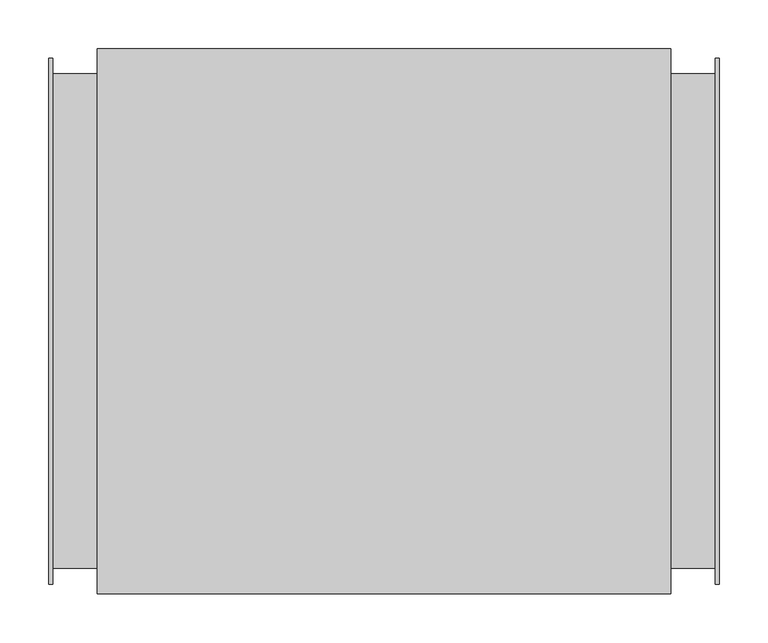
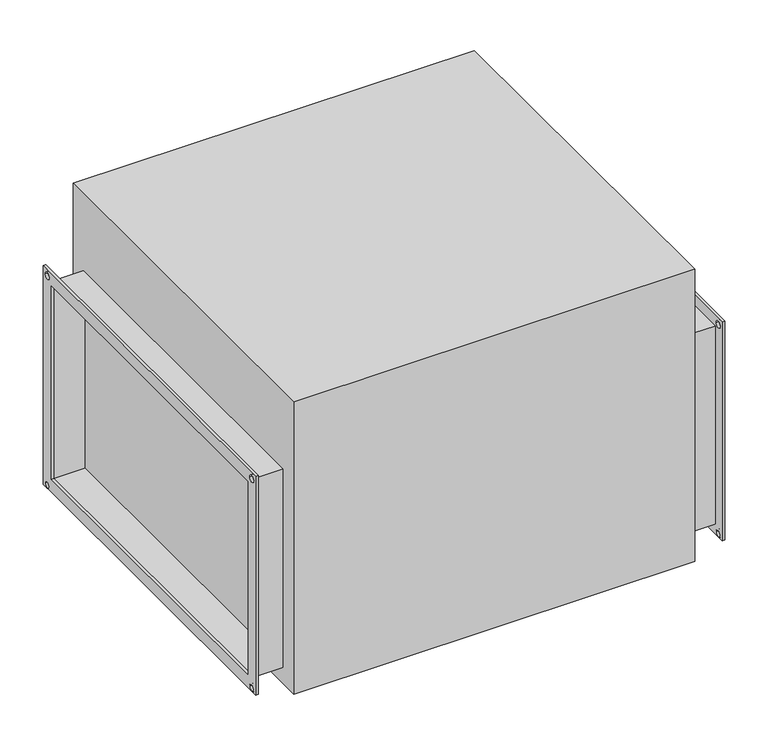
"""IFC4 building model written with IfcOpenShell, lengths in millimetres: proxy geometry."""

from ifc_helpers import new_model, si_unit, frame, origin, place, context, project, spatial, polyline, circle_curve, outline, extrude, source, transform, mapped, element, save
from ifc_brep_helpers import plane_surface, revolved_surface, advanced_brep


def mechanical_equipment_c9182f76(model_context):
    return source(origin(), model_context, "Body", "SolidModel", [
        advanced_brep(
        [(340.5, 270.0, 170.0), (340.5, 270.0, -170.0), (340.5, 260.0, -170.0), (340.5, 265.0, -165.0), (340.5, 255.0, -165.0), (340.5, -260.0, -170.0), (340.5, -255.0, -165.0), (340.5, -265.0, -165.0), (340.5, -270.0, -170.0), (340.5, -270.0, 170.0), (340.5, 250.0, 150.0), (340.5, -250.0, 150.0), (340.5, -250.0, -150.0), (340.5, 250.0, -150.0), (340.5, 255.0, 160.0), (340.5, 265.0, 160.0), (340.5, -265.0, 160.0), (340.5, -255.0, 160.0), (344.5, 270.0, 170.0), (344.5, -270.0, 170.0), (344.5, -270.0, -170.0), (344.5, -260.0, -170.0), (344.5, -265.0, -165.0), (344.5, -255.0, -165.0), (344.5, 260.0, -170.0), (344.5, 255.0, -165.0), (344.5, 265.0, -165.0), (344.5, 270.0, -170.0), (344.5, 250.0, 150.0), (344.5, 250.0, -150.0), (344.5, -250.0, -150.0), (344.5, -250.0, 150.0), (344.5, 265.0, 160.0), (344.5, 255.0, 160.0), (344.5, -255.0, 160.0), (344.5, -265.0, 160.0)],
        [
            (0, 1),
            (1, 2),
            (2, 3, circle_curve(frame((340.5, 260.0, -165.0), z_axis=(1.0, 0.0, 0.0), x_axis=(0.0, 1.0, 0.0)), 5.0)),
            (3, 4, circle_curve(frame((340.5, 260.0, -165.0), z_axis=(1.0, 0.0, 0.0), x_axis=(0.0, 1.0, 0.0)), 5.0)),
            (4, 2, circle_curve(frame((340.5, 260.0, -165.0), z_axis=(1.0, 0.0, 0.0), x_axis=(0.0, 1.0, 0.0)), 5.0)),
            (2, 5),
            (5, 6, circle_curve(frame((340.5, -260.0, -165.0), z_axis=(1.0, 0.0, 0.0), x_axis=(0.0, 1.0, 0.0)), 5.0)),
            (6, 7, circle_curve(frame((340.5, -260.0, -165.0), z_axis=(1.0, 0.0, 0.0), x_axis=(0.0, 1.0, 0.0)), 5.0)),
            (7, 5, circle_curve(frame((340.5, -260.0, -165.0), z_axis=(1.0, 0.0, 0.0), x_axis=(0.0, 1.0, 0.0)), 5.0)),
            (5, 8),
            (8, 9),
            (9, 0),
            (10, 11),
            (11, 12),
            (12, 13),
            (13, 10),
            (14, 15, circle_curve(frame((340.5, 260.0, 160.0), z_axis=(1.0, 0.0, 0.0), x_axis=(0.0, 1.0, 0.0)), 5.0)),
            (15, 14, circle_curve(frame((340.5, 260.0, 160.0), z_axis=(1.0, 0.0, 0.0), x_axis=(0.0, 1.0, 0.0)), 5.0)),
            (16, 17, circle_curve(frame((340.5, -260.0, 160.0), z_axis=(1.0, 0.0, 0.0), x_axis=(0.0, 1.0, 0.0)), 5.0)),
            (17, 16, circle_curve(frame((340.5, -260.0, 160.0), z_axis=(1.0, 0.0, 0.0), x_axis=(0.0, 1.0, 0.0)), 5.0)),
            (18, 19),
            (19, 20),
            (20, 21),
            (21, 22, circle_curve(frame((344.5, -260.0, -165.0), z_axis=(-1.0, 0.0, 0.0), x_axis=(0.0, 1.0, 0.0)), 5.0)),
            (22, 23, circle_curve(frame((344.5, -260.0, -165.0), z_axis=(-1.0, 0.0, 0.0), x_axis=(0.0, 1.0, 0.0)), 5.0)),
            (23, 21, circle_curve(frame((344.5, -260.0, -165.0), z_axis=(-1.0, 0.0, 0.0), x_axis=(0.0, 1.0, 0.0)), 5.0)),
            (21, 24),
            (24, 25, circle_curve(frame((344.5, 260.0, -165.0), z_axis=(-1.0, 0.0, 0.0), x_axis=(0.0, 1.0, 0.0)), 5.0)),
            (25, 26, circle_curve(frame((344.5, 260.0, -165.0), z_axis=(-1.0, 0.0, 0.0), x_axis=(0.0, 1.0, 0.0)), 5.0)),
            (26, 24, circle_curve(frame((344.5, 260.0, -165.0), z_axis=(-1.0, 0.0, 0.0), x_axis=(0.0, 1.0, 0.0)), 5.0)),
            (24, 27),
            (27, 18),
            (28, 29),
            (29, 30),
            (30, 31),
            (31, 28),
            (32, 33, circle_curve(frame((344.5, 260.0, 160.0), z_axis=(-1.0, 0.0, 0.0), x_axis=(0.0, 1.0, 0.0)), 5.0)),
            (33, 32, circle_curve(frame((344.5, 260.0, 160.0), z_axis=(-1.0, 0.0, 0.0), x_axis=(0.0, 1.0, 0.0)), 5.0)),
            (34, 35, circle_curve(frame((344.5, -260.0, 160.0), z_axis=(-1.0, 0.0, 0.0), x_axis=(0.0, 1.0, 0.0)), 5.0)),
            (35, 34, circle_curve(frame((344.5, -260.0, 160.0), z_axis=(-1.0, 0.0, 0.0), x_axis=(0.0, 1.0, 0.0)), 5.0)),
            (13, 29),
            (28, 10),
            (12, 30),
            (11, 31),
            (9, 19),
            (18, 0),
            (8, 20),
            (1, 27),
            (14, 33),
            (32, 15),
            (16, 35),
            (34, 17),
            (7, 22),
            (23, 6),
            (4, 25),
            (26, 3),
        ],
        [
            plane_surface(frame((340.5, 250.0, -150.0), z_axis=(-1.0, 0.0, 0.0), x_axis=(0.0, 0.0, 1.0))),
            plane_surface(frame((344.5, 250.0, -150.0), z_axis=(1.0, 0.0, 0.0), x_axis=(0.0, 0.0, -1.0))),
            plane_surface(frame((344.5, 250.0, 150.0), z_axis=(0.0, -1.0, 0.0), x_axis=(-1.0, 0.0, 0.0))),
            plane_surface(frame((344.5, 250.0, -150.0), z_axis=(0.0, 0.0, 1.0), x_axis=(-1.0, 0.0, 0.0))),
            plane_surface(frame((344.5, -250.0, -150.0), z_axis=(0.0, 1.0, 0.0), x_axis=(-1.0, 0.0, 0.0))),
            plane_surface(frame((344.5, -250.0, 150.0), z_axis=(0.0, 0.0, -1.0), x_axis=(-1.0, 0.0, 0.0))),
            plane_surface(frame((344.5, 270.0, 170.0), z_axis=(0.0, 0.0, 1.0), x_axis=(-1.0, 0.0, 0.0))),
            plane_surface(frame((344.5, -270.0, 170.0), z_axis=(0.0, -1.0, 0.0), x_axis=(-1.0, 0.0, 0.0))),
            plane_surface(frame((344.5, -270.0, -170.0), z_axis=(0.0, 0.0, -1.0), x_axis=(-1.0, 0.0, 0.0))),
            plane_surface(frame((344.5, 270.0, -170.0), z_axis=(0.0, 1.0, 0.0), x_axis=(-1.0, 0.0, 0.0))),
            revolved_surface(polyline([(344.5, 265.0, 160.0), (340.5, 265.0, 160.0)]), (-344.5, 260.0, 160.0), (1.0, 0.0, 0.0)),
            revolved_surface(polyline([(344.5, -255.0, 160.0), (340.5, -255.0, 160.0)]), (0.0, -260.0, 160.0), (1.0, 0.0, 0.0)),
            revolved_surface(polyline([(344.5, -255.0, -165.0), (340.5, -255.0, -165.0)]), (0.0, -260.0, -165.0), (1.0, 0.0, 0.0)),
            revolved_surface(polyline([(344.5, 265.0, -165.0), (340.5, 265.0, -165.0)]), (0.0, 260.0, -165.0), (1.0, 0.0, 0.0)),
        ],
        [
            (0, [[1, 2, 3, 4, 5, 6, 7, 8, 9, 10, 11, 12], [13, 14, 15, 16], [17, 18], [19, 20]]),
            (1, [[21, 22, 23, 24, 25, 26, 27, 28, 29, 30, 31, 32], [33, 34, 35, 36], [37, 38], [39, 40]]),
            (2, [[-16, 41, -33, 42]]),
            (3, [[-15, 43, -34, -41]]),
            (4, [[-14, 44, -35, -43]]),
            (5, [[-13, -42, -36, -44]]),
            (6, [[-12, 45, -21, 46]]),
            (7, [[-11, 47, -22, -45]]),
            (8, [[-47, -10, -6, -2, 48, -31, -27, -23]]),
            (9, [[-1, -46, -32, -48]]),
            (10, [[49, -37, 50, -17]]),
            (10, [[-49, -18, -50, -38]]),
            (11, [[51, -39, 52, -19]]),
            (11, [[-51, -20, -52, -40]]),
            (12, [[53, -24, -26, 54, -7, -9]]),
            (12, [[-53, -8, -54, -25]]),
            (13, [[55, -28, -30, 56, -3, -5]]),
            (13, [[-55, -4, -56, -29]]),
        ],
    ),
        advanced_brep(
        [(-344.5, -270.0, 170.0), (-344.5, 270.0, 170.0), (-344.5, 270.0, -170.0), (-344.5, 260.0, -170.0), (-344.5, 265.0, -165.0), (-344.5, 255.0, -165.0), (-344.5, -260.0, -170.0), (-344.5, -255.0, -165.0), (-344.5, -265.0, -165.0), (-344.5, -270.0, -170.0), (-344.5, -250.0, 150.0), (-344.5, -250.0, -150.0), (-344.5, 250.0, -150.0), (-344.5, 250.0, 150.0), (-344.5, 255.0, 160.0), (-344.5, 265.0, 160.0), (-344.5, -265.0, 160.0), (-344.5, -255.0, 160.0), (-340.5, -270.0, 170.0), (-340.5, -270.0, -170.0), (-340.5, -260.0, -170.0), (-340.5, -265.0, -165.0), (-340.5, -255.0, -165.0), (-340.5, 260.0, -170.0), (-340.5, 255.0, -165.0), (-340.5, 265.0, -165.0), (-340.5, 270.0, -170.0), (-340.5, 270.0, 170.0), (-340.5, -250.0, 150.0), (-340.5, 250.0, 150.0), (-340.5, 250.0, -150.0), (-340.5, -250.0, -150.0), (-340.5, 265.0, 160.0), (-340.5, 255.0, 160.0), (-340.5, -255.0, 160.0), (-340.5, -265.0, 160.0)],
        [
            (0, 1),
            (1, 2),
            (2, 3),
            (3, 4, circle_curve(frame((-344.5, 260.0, -165.0), z_axis=(1.0, 0.0, 0.0), x_axis=(0.0, 1.0, 0.0)), 5.0)),
            (4, 5, circle_curve(frame((-344.5, 260.0, -165.0), z_axis=(1.0, 0.0, 0.0), x_axis=(0.0, 1.0, 0.0)), 5.0)),
            (5, 3, circle_curve(frame((-344.5, 260.0, -165.0), z_axis=(1.0, 0.0, 0.0), x_axis=(0.0, 1.0, 0.0)), 5.0)),
            (3, 6),
            (6, 7, circle_curve(frame((-344.5, -260.0, -165.0), z_axis=(1.0, 0.0, 0.0), x_axis=(0.0, 1.0, 0.0)), 5.0)),
            (7, 8, circle_curve(frame((-344.5, -260.0, -165.0), z_axis=(1.0, 0.0, 0.0), x_axis=(0.0, 1.0, 0.0)), 5.0)),
            (8, 6, circle_curve(frame((-344.5, -260.0, -165.0), z_axis=(1.0, 0.0, 0.0), x_axis=(0.0, 1.0, 0.0)), 5.0)),
            (6, 9),
            (9, 0),
            (10, 11),
            (11, 12),
            (12, 13),
            (13, 10),
            (14, 15, circle_curve(frame((-344.5, 260.0, 160.0), z_axis=(1.0, 0.0, 0.0), x_axis=(0.0, 1.0, 0.0)), 5.0)),
            (15, 14, circle_curve(frame((-344.5, 260.0, 160.0), z_axis=(1.0, 0.0, 0.0), x_axis=(0.0, 1.0, 0.0)), 5.0)),
            (16, 17, circle_curve(frame((-344.5, -260.0, 160.0), z_axis=(1.0, 0.0, 0.0), x_axis=(0.0, 1.0, 0.0)), 5.0)),
            (17, 16, circle_curve(frame((-344.5, -260.0, 160.0), z_axis=(1.0, 0.0, 0.0), x_axis=(0.0, 1.0, 0.0)), 5.0)),
            (18, 19),
            (19, 20),
            (20, 21, circle_curve(frame((-340.5, -260.0, -165.0), z_axis=(-1.0, 0.0, 0.0), x_axis=(0.0, 1.0, 0.0)), 5.0)),
            (21, 22, circle_curve(frame((-340.5, -260.0, -165.0), z_axis=(-1.0, 0.0, 0.0), x_axis=(0.0, 1.0, 0.0)), 5.0)),
            (22, 20, circle_curve(frame((-340.5, -260.0, -165.0), z_axis=(-1.0, 0.0, 0.0), x_axis=(0.0, 1.0, 0.0)), 5.0)),
            (20, 23),
            (23, 24, circle_curve(frame((-340.5, 260.0, -165.0), z_axis=(-1.0, 0.0, 0.0), x_axis=(0.0, 1.0, 0.0)), 5.0)),
            (24, 25, circle_curve(frame((-340.5, 260.0, -165.0), z_axis=(-1.0, 0.0, 0.0), x_axis=(0.0, 1.0, 0.0)), 5.0)),
            (25, 23, circle_curve(frame((-340.5, 260.0, -165.0), z_axis=(-1.0, 0.0, 0.0), x_axis=(0.0, 1.0, 0.0)), 5.0)),
            (23, 26),
            (26, 27),
            (27, 18),
            (28, 29),
            (29, 30),
            (30, 31),
            (31, 28),
            (32, 33, circle_curve(frame((-340.5, 260.0, 160.0), z_axis=(-1.0, 0.0, 0.0), x_axis=(0.0, 1.0, 0.0)), 5.0)),
            (33, 32, circle_curve(frame((-340.5, 260.0, 160.0), z_axis=(-1.0, 0.0, 0.0), x_axis=(0.0, 1.0, 0.0)), 5.0)),
            (34, 35, circle_curve(frame((-340.5, -260.0, 160.0), z_axis=(-1.0, 0.0, 0.0), x_axis=(0.0, 1.0, 0.0)), 5.0)),
            (35, 34, circle_curve(frame((-340.5, -260.0, 160.0), z_axis=(-1.0, 0.0, 0.0), x_axis=(0.0, 1.0, 0.0)), 5.0)),
            (9, 19),
            (18, 0),
            (2, 26),
            (1, 27),
            (13, 29),
            (28, 10),
            (12, 30),
            (11, 31),
            (14, 33),
            (32, 15),
            (16, 35),
            (34, 17),
            (8, 21),
            (22, 7),
            (5, 24),
            (25, 4),
        ],
        [
            plane_surface(frame((-344.5, -270.0, 170.0), z_axis=(-1.0, 0.0, 0.0), x_axis=(0.0, 0.0, 1.0))),
            plane_surface(frame((-340.5, -270.0, 170.0), z_axis=(1.0, 0.0, 0.0), x_axis=(0.0, 0.0, -1.0))),
            plane_surface(frame((-340.5, -270.0, 170.0), z_axis=(0.0, -1.0, 0.0), x_axis=(-1.0, 0.0, 0.0))),
            plane_surface(frame((-340.5, -270.0, -170.0), z_axis=(0.0, 0.0, -1.0), x_axis=(-1.0, 0.0, 0.0))),
            plane_surface(frame((-340.5, 270.0, -170.0), z_axis=(0.0, 1.0, 0.0), x_axis=(-1.0, 0.0, 0.0))),
            plane_surface(frame((-340.5, 270.0, 170.0), z_axis=(0.0, 0.0, 1.0), x_axis=(-1.0, 0.0, 0.0))),
            plane_surface(frame((-340.5, -250.0, 150.0), z_axis=(0.0, 0.0, -1.0), x_axis=(-1.0, 0.0, 0.0))),
            plane_surface(frame((-340.5, 250.0, 150.0), z_axis=(0.0, -1.0, 0.0), x_axis=(-1.0, 0.0, 0.0))),
            plane_surface(frame((-340.5, 250.0, -150.0), z_axis=(0.0, 0.0, 1.0), x_axis=(-1.0, 0.0, 0.0))),
            plane_surface(frame((-340.5, -250.0, -150.0), z_axis=(0.0, 1.0, 0.0), x_axis=(-1.0, 0.0, 0.0))),
            revolved_surface(polyline([(-340.5, 265.0, 160.0), (-344.5, 265.0, 160.0)]), (-344.5, 260.0, 160.0), (1.0, 0.0, 0.0)),
            revolved_surface(polyline([(-340.5, -255.0, 160.0), (-344.5, -255.0, 160.0)]), (0.0, -260.0, 160.0), (1.0, 0.0, 0.0)),
            revolved_surface(polyline([(-340.5, -255.0, -165.0), (-344.5, -255.0, -165.0)]), (0.0, -260.0, -165.0), (1.0, 0.0, 0.0)),
            revolved_surface(polyline([(-340.5, 265.0, -165.0), (-344.5, 265.0, -165.0)]), (0.0, 260.0, -165.0), (1.0, 0.0, 0.0)),
        ],
        [
            (0, [[1, 2, 3, 4, 5, 6, 7, 8, 9, 10, 11, 12], [13, 14, 15, 16], [17, 18], [19, 20]]),
            (1, [[21, 22, 23, 24, 25, 26, 27, 28, 29, 30, 31, 32], [33, 34, 35, 36], [37, 38], [39, 40]]),
            (2, [[-12, 41, -21, 42]]),
            (3, [[-41, -11, -7, -3, 43, -30, -26, -22]]),
            (4, [[-2, 44, -31, -43]]),
            (5, [[-1, -42, -32, -44]]),
            (6, [[-16, 45, -33, 46]]),
            (7, [[-15, 47, -34, -45]]),
            (8, [[-14, 48, -35, -47]]),
            (9, [[-13, -46, -36, -48]]),
            (10, [[49, -37, 50, -17]]),
            (10, [[-49, -18, -50, -38]]),
            (11, [[51, -39, 52, -19]]),
            (11, [[-51, -20, -52, -40]]),
            (12, [[53, -23, -25, 54, -8, -10]]),
            (12, [[-53, -9, -54, -24]]),
            (13, [[55, -27, -29, 56, -4, -6]]),
            (13, [[-55, -5, -56, -28]]),
        ],
    ),
        extrude(outline(polyline([(294.5, 280.0), (294.5, -280.0), (-294.5, -280.0), (-294.5, 280.0), (294.5, 280.0)])), frame((0.0, 0.0, -180.0), z_axis=(0.0, 0.0, 1.0), x_axis=(1.0, 0.0, 0.0)), (0.0, 0.0, 1.0), 454.0),
        extrude(outline(polyline([(-254.0, 154.0), (254.0, 154.0), (254.0, -154.0), (-254.0, -154.0), (-254.0, 154.0)]), holes=[polyline([(250.0, 150.0), (-250.0, 150.0), (-250.0, -150.0), (250.0, -150.0), (250.0, 150.0)])]), frame((-340.5, 0.0, 0.0), z_axis=(1.0, 0.0, 0.0), x_axis=(0.0, 1.0, 0.0)), (0.0, 0.0, 1.0), 46.0),
        extrude(outline(polyline([(-254.0, 154.0), (254.0, 154.0), (254.0, -154.0), (-254.0, -154.0), (-254.0, 154.0)]), holes=[polyline([(250.0, 150.0), (-250.0, 150.0), (-250.0, -150.0), (250.0, -150.0), (250.0, 150.0)])]), frame((294.5, 0.0, 0.0), z_axis=(1.0, 0.0, 0.0), x_axis=(0.0, 1.0, 0.0)), (0.0, 0.0, 1.0), 46.0),
    ])


if __name__ == "__main__":
    model = new_model("IFC4")
    model_context = context("Model", 3, world=origin())
    ifc_project = project(units=[si_unit("LENGTHUNIT", "METRE", prefix="MILLI")], contexts=[model_context])
    site = spatial("IfcSite", under=ifc_project)
    building = spatial("IfcBuilding", under=site)
    placement = place(None, origin())
    mechanical_equipment_shape = mechanical_equipment_c9182f76(model_context)
    element("IfcBuildingElementProxy", 1, Name="Mechanical Equipment", at=placement, inside=building, context=model_context, shape_type="MappedRepresentation", body=[
        mapped(mechanical_equipment_shape, transform((0.0, 0.0, 0.0), x_axis=(1.0, 0.0, 0.0), y_axis=(0.0, 1.0, 0.0), z_axis=(0.0, 0.0, 1.0))),
    ])
    save(model, "model.ifc")
